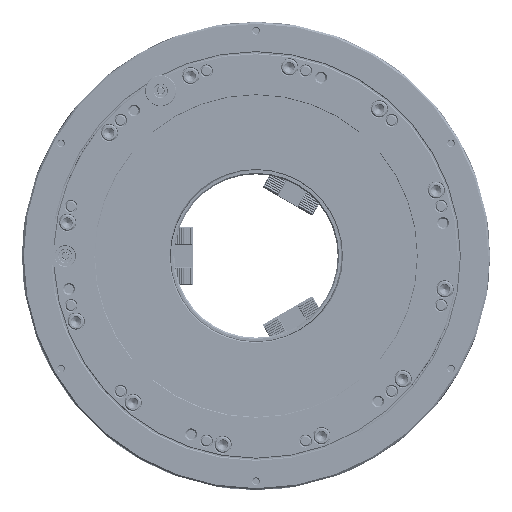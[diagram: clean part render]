
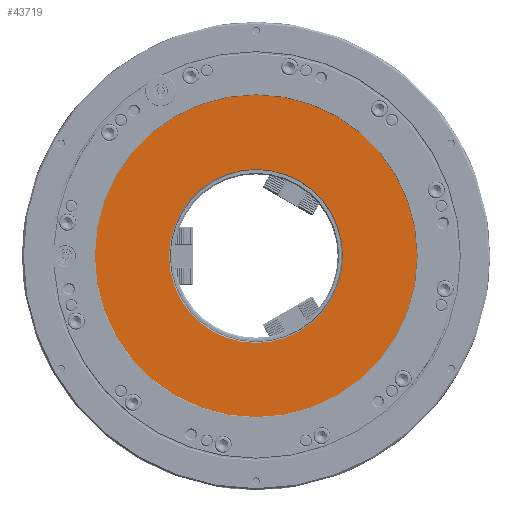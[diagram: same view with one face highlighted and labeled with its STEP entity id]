
A CAD part, left-side view. The second image highlights one B-rep face of the part: STEP entity #43719.
In plain terms, the highlighted planar face has unit normal (-1, 0, 0).
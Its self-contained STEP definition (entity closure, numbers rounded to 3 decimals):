
#1800 = VERTEX_POINT ( 'NONE', #102581 ) ;
#3622 = ORIENTED_EDGE ( 'NONE', *, *, #135667, .F. ) ;
#8736 = AXIS2_PLACEMENT_3D ( 'NONE', #221111, #177615, #11775 ) ;
#11775 = DIRECTION ( 'NONE',  ( 0., 0., -1. ) ) ;
#13613 = DIRECTION ( 'NONE',  ( 1., 0., 0. ) ) ;
#34668 = DIRECTION ( 'NONE',  ( 1., 0., 0. ) ) ;
#36944 = DIRECTION ( 'NONE',  ( -1., 0., 0. ) ) ;
#43719 = ADVANCED_FACE ( 'NONE', ( #244843, #262579 ), #76441, .T. ) ;
#51349 = EDGE_CURVE ( 'NONE', #1800, #65330, #267112, .T. ) ;
#58514 = CARTESIAN_POINT ( 'NONE',  ( -17., 0., 0. ) ) ;
#63065 = EDGE_CURVE ( 'NONE', #100398, #186597, #256574, .T. ) ;
#65330 = VERTEX_POINT ( 'NONE', #166364 ) ;
#76441 = PLANE ( 'NONE',  #137318 ) ;
#100398 = VERTEX_POINT ( 'NONE', #260776 ) ;
#102581 = CARTESIAN_POINT ( 'NONE',  ( -17., 0., 98.5 ) ) ;
#106049 = CARTESIAN_POINT ( 'NONE',  ( -17., 0., 182.5 ) ) ;
#108691 = ORIENTED_EDGE ( 'NONE', *, *, #248967, .T. ) ;
#116341 = DIRECTION ( 'NONE',  ( 0., 0., -1. ) ) ;
#120036 = ORIENTED_EDGE ( 'NONE', *, *, #63065, .F. ) ;
#135667 = EDGE_CURVE ( 'NONE', #186597, #100398, #156441, .T. ) ;
#137318 = AXIS2_PLACEMENT_3D ( 'NONE', #204070, #36944, #138962 ) ;
#138962 = DIRECTION ( 'NONE',  ( 0., 0., 1. ) ) ;
#156441 = CIRCLE ( 'NONE', #8736, 182.5 ) ;
#158387 = DIRECTION ( 'NONE',  ( 0., 0., -1. ) ) ;
#158688 = AXIS2_PLACEMENT_3D ( 'NONE', #241312, #161119, #116341 ) ;
#161119 = DIRECTION ( 'NONE',  ( 1., 0., 0. ) ) ;
#166364 = CARTESIAN_POINT ( 'NONE',  ( -17., 0., -98.5 ) ) ;
#167128 = EDGE_LOOP ( 'NONE', ( #190373, #108691 ) ) ;
#177615 = DIRECTION ( 'NONE',  ( 1., 0., 0. ) ) ;
#186597 = VERTEX_POINT ( 'NONE', #106049 ) ;
#188475 = EDGE_LOOP ( 'NONE', ( #120036, #3622 ) ) ;
#190373 = ORIENTED_EDGE ( 'NONE', *, *, #51349, .T. ) ;
#194569 = CIRCLE ( 'NONE', #229342, 98.5 ) ;
#204070 = CARTESIAN_POINT ( 'NONE',  ( -17., 182.5, 0. ) ) ;
#221111 = CARTESIAN_POINT ( 'NONE',  ( -17., 0., 0. ) ) ;
#224310 = DIRECTION ( 'NONE',  ( 0., 0., -1. ) ) ;
#229342 = AXIS2_PLACEMENT_3D ( 'NONE', #58514, #13613, #224310 ) ;
#241312 = CARTESIAN_POINT ( 'NONE',  ( -17., 0., 0. ) ) ;
#244843 = FACE_BOUND ( 'NONE', #167128, .T. ) ;
#248967 = EDGE_CURVE ( 'NONE', #65330, #1800, #194569, .T. ) ;
#256574 = CIRCLE ( 'NONE', #265288, 182.5 ) ;
#260776 = CARTESIAN_POINT ( 'NONE',  ( -17., 0., -182.5 ) ) ;
#261660 = CARTESIAN_POINT ( 'NONE',  ( -17., 0., 0. ) ) ;
#262579 = FACE_OUTER_BOUND ( 'NONE', #188475, .T. ) ;
#265288 = AXIS2_PLACEMENT_3D ( 'NONE', #261660, #34668, #158387 ) ;
#267112 = CIRCLE ( 'NONE', #158688, 98.5 ) ;
